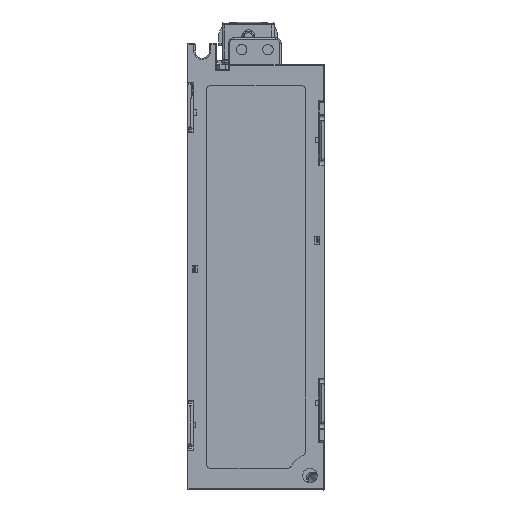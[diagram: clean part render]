
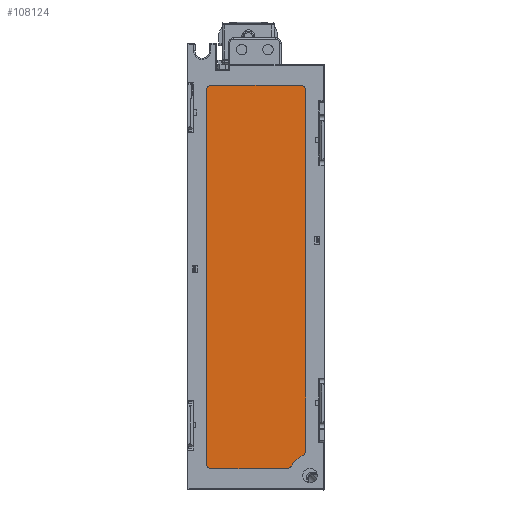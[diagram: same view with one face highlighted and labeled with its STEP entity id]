
A CAD part, front view. The second image highlights one B-rep face of the part: STEP entity #108124.
In plain terms, the highlighted planar face has unit normal (0, -1, 0).
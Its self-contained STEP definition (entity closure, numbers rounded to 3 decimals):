
#40004=CARTESIAN_POINT('',(20.07,-74.,-152.));
#40005=DIRECTION('',(0.,-1.,0.));
#40006=DIRECTION('',(0.,0.,-1.));
#40007=AXIS2_PLACEMENT_3D('',#40004,#40005,#40006);
#40009=DIRECTION('',(1.,0.,0.));
#40010=VECTOR('',#40009,28.47);
#40011=CARTESIAN_POINT('',(-8.4,-74.,-154.));
#40012=LINE('',#40011,#40010);
#40013=CARTESIAN_POINT('',(-8.4,-74.,-152.));
#40014=DIRECTION('',(0.,-1.,0.));
#40015=DIRECTION('',(-1.,0.,0.));
#40016=AXIS2_PLACEMENT_3D('',#40013,#40014,#40015);
#40018=DIRECTION('',(0.,0.,-1.));
#40019=VECTOR('',#40018,142.);
#40020=CARTESIAN_POINT('',(-10.4,-74.,-10.));
#40021=LINE('',#40020,#40019);
#40022=CARTESIAN_POINT('',(-8.4,-74.,-10.));
#40023=DIRECTION('',(0.,-1.,0.));
#40024=DIRECTION('',(0.,0.,1.));
#40025=AXIS2_PLACEMENT_3D('',#40022,#40023,#40024);
#40027=DIRECTION('',(-1.,0.,0.));
#40028=VECTOR('',#40027,33.7);
#40029=CARTESIAN_POINT('',(25.3,-74.,-8.));
#40030=LINE('',#40029,#40028);
#40031=CARTESIAN_POINT('',(25.3,-74.,-10.));
#40032=DIRECTION('',(0.,-1.,0.));
#40033=DIRECTION('',(1.,0.,0.));
#40034=AXIS2_PLACEMENT_3D('',#40031,#40032,#40033);
#40036=DIRECTION('',(0.,0.,1.));
#40037=VECTOR('',#40036,137.21);
#40038=CARTESIAN_POINT('',(27.3,-74.,-147.21));
#40039=LINE('',#40038,#40037);
#40040=CARTESIAN_POINT('',(25.3,-74.,-147.21));
#40041=DIRECTION('',(0.,-1.,0.));
#40042=DIRECTION('',(0.37,0.,-0.929));
#40043=AXIS2_PLACEMENT_3D('',#40040,#40041,#40042);
#40045=CARTESIAN_POINT('',(29.,-74.,-156.5));
#40046=DIRECTION('',(0.,1.,0.));
#40047=DIRECTION('',(-0.893,0.,0.45));
#40048=AXIS2_PLACEMENT_3D('',#40045,#40046,#40047);
#53910=CARTESIAN_POINT('',(21.856,-74.,-152.9));
#53911=CARTESIAN_POINT('',(26.04,-74.,-149.068));
#53912=VERTEX_POINT('',#53910);
#53913=VERTEX_POINT('',#53911);
#53918=CARTESIAN_POINT('',(-8.4,-74.,-154.));
#53919=CARTESIAN_POINT('',(20.07,-74.,-154.));
#53920=VERTEX_POINT('',#53918);
#53921=VERTEX_POINT('',#53919);
#53926=CARTESIAN_POINT('',(-10.4,-74.,-10.));
#53927=CARTESIAN_POINT('',(-10.4,-74.,-152.));
#53928=VERTEX_POINT('',#53926);
#53929=VERTEX_POINT('',#53927);
#53935=CARTESIAN_POINT('',(25.3,-74.,-8.));
#53937=VERTEX_POINT('',#53935);
#53938=CARTESIAN_POINT('',(-8.4,-74.,-8.));
#53939=VERTEX_POINT('',#53938);
#53942=CARTESIAN_POINT('',(27.3,-74.,-147.21));
#53943=CARTESIAN_POINT('',(27.3,-74.,-10.));
#53944=VERTEX_POINT('',#53942);
#53945=VERTEX_POINT('',#53943);
#108098=CARTESIAN_POINT('',(8.45,-74.,-81.));
#108099=DIRECTION('',(0.,1.,0.));
#108100=DIRECTION('',(-1.,0.,0.));
#108101=AXIS2_PLACEMENT_3D('',#108098,#108099,#108100);
#108102=PLANE('',#108101);
#108104=ORIENTED_EDGE('',*,*,#108103,.F.);
#108106=ORIENTED_EDGE('',*,*,#108105,.F.);
#108108=ORIENTED_EDGE('',*,*,#108107,.F.);
#108110=ORIENTED_EDGE('',*,*,#108109,.F.);
#108112=ORIENTED_EDGE('',*,*,#108111,.F.);
#108114=ORIENTED_EDGE('',*,*,#108113,.F.);
#108115=ORIENTED_EDGE('',*,*,#108088,.F.);
#108117=ORIENTED_EDGE('',*,*,#108116,.F.);
#108119=ORIENTED_EDGE('',*,*,#108118,.F.);
#108121=ORIENTED_EDGE('',*,*,#108120,.F.);
#108122=EDGE_LOOP('',(#108104,#108106,#108108,#108110,#108112,#108114,#108115,
#108117,#108119,#108121));
#108123=FACE_OUTER_BOUND('',#108122,.F.);
#40008=CIRCLE('',#40007,2.);
#40017=CIRCLE('',#40016,2.);
#40026=CIRCLE('',#40025,2.);
#40035=CIRCLE('',#40034,2.);
#40044=CIRCLE('',#40043,2.);
#40049=CIRCLE('',#40048,8.);
#108088=EDGE_CURVE('',#53945,#53937,#40035,.T.);
#108103=EDGE_CURVE('',#53921,#53912,#40008,.T.);
#108105=EDGE_CURVE('',#53920,#53921,#40012,.T.);
#108107=EDGE_CURVE('',#53929,#53920,#40017,.T.);
#108109=EDGE_CURVE('',#53928,#53929,#40021,.T.);
#108111=EDGE_CURVE('',#53939,#53928,#40026,.T.);
#108113=EDGE_CURVE('',#53937,#53939,#40030,.T.);
#108116=EDGE_CURVE('',#53944,#53945,#40039,.T.);
#108118=EDGE_CURVE('',#53913,#53944,#40044,.T.);
#108120=EDGE_CURVE('',#53912,#53913,#40049,.T.);
#108124=ADVANCED_FACE('',(#108123),#108102,.F.);
